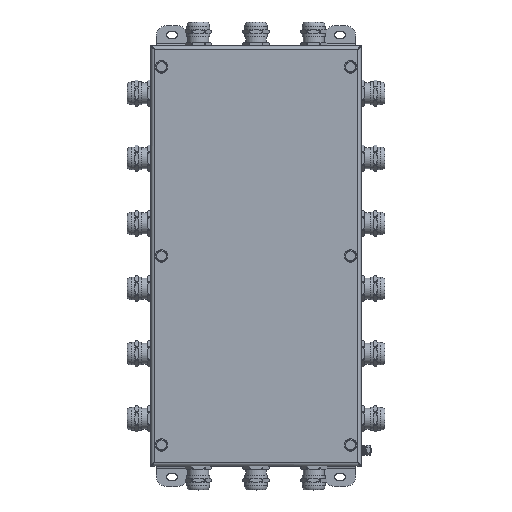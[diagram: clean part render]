
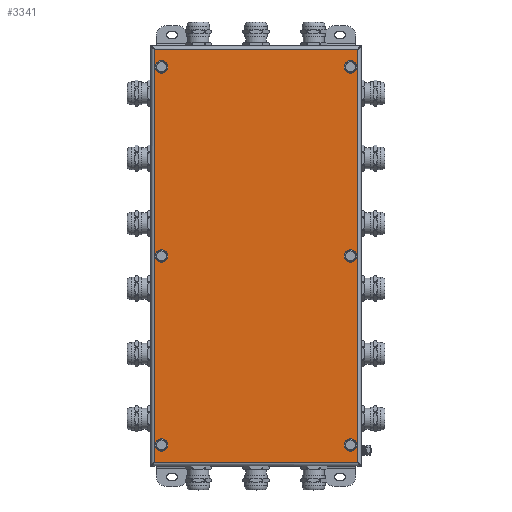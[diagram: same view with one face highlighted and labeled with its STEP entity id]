
A CAD part, top view. The second image highlights one B-rep face of the part: STEP entity #3341.
In plain terms, the highlighted planar face has unit normal (0, 0, 1).
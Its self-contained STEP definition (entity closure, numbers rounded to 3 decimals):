
#3341=ADVANCED_FACE('',(#21855,#21857,#21859,#21861,#21863,#21865,#21867),#21869,
.T.);
#21855=FACE_BOUND('',#21856,.T.);
#21856=EDGE_LOOP('',(#30116,#30117,#30118,#30119));
#21857=FACE_BOUND('',#21858,.T.);
#21858=EDGE_LOOP('',(#30120));
#21859=FACE_BOUND('',#21860,.T.);
#21860=EDGE_LOOP('',(#30121));
#21861=FACE_BOUND('',#21862,.T.);
#21862=EDGE_LOOP('',(#30122));
#21863=FACE_BOUND('',#21864,.T.);
#21864=EDGE_LOOP('',(#30123));
#21865=FACE_BOUND('',#21866,.T.);
#21866=EDGE_LOOP('',(#30124));
#21867=FACE_BOUND('',#21868,.T.);
#21868=EDGE_LOOP('',(#30125));
#21869=PLANE('',#21870);
#21870=AXIS2_PLACEMENT_3D('',#21871,#21872,#21873);
#21871=CARTESIAN_POINT('',(0.,0.,61.5));
#21872=DIRECTION('',(0.,-0.,1.));
#21873=DIRECTION('',(0.,1.,0.));
#30116=ORIENTED_EDGE('',*,*,#36983,.T.);
#30117=ORIENTED_EDGE('',*,*,#36984,.T.);
#30118=ORIENTED_EDGE('',*,*,#36985,.T.);
#30119=ORIENTED_EDGE('',*,*,#36986,.T.);
#30120=ORIENTED_EDGE('',*,*,#34010,.T.);
#30121=ORIENTED_EDGE('',*,*,#34004,.T.);
#30122=ORIENTED_EDGE('',*,*,#33998,.T.);
#30123=ORIENTED_EDGE('',*,*,#33992,.T.);
#30124=ORIENTED_EDGE('',*,*,#33986,.T.);
#30125=ORIENTED_EDGE('',*,*,#33980,.T.);
#33980=EDGE_CURVE('',#48079,#48079,#48080,.F.);
#33986=EDGE_CURVE('',#48091,#48091,#48092,.F.);
#33992=EDGE_CURVE('',#48103,#48103,#48104,.F.);
#33998=EDGE_CURVE('',#48115,#48115,#48116,.F.);
#34004=EDGE_CURVE('',#48127,#48127,#48128,.F.);
#34010=EDGE_CURVE('',#48139,#48139,#48140,.F.);
#36983=EDGE_CURVE('',#49545,#49546,#49547,.T.);
#36984=EDGE_CURVE('',#49546,#49548,#49549,.T.);
#36985=EDGE_CURVE('',#49548,#49550,#49551,.T.);
#36986=EDGE_CURVE('',#49550,#49545,#49552,.T.);
#48079=VERTEX_POINT('',#52330);
#48080=CIRCLE('',#52331,6.);
#48091=VERTEX_POINT('',#52360);
#48092=CIRCLE('',#52361,6.);
#48103=VERTEX_POINT('',#52390);
#48104=CIRCLE('',#52391,6.);
#48115=VERTEX_POINT('',#52420);
#48116=CIRCLE('',#52421,6.);
#48127=VERTEX_POINT('',#52450);
#48128=CIRCLE('',#52451,6.);
#48139=VERTEX_POINT('',#52480);
#48140=CIRCLE('',#52481,6.);
#49545=VERTEX_POINT('',#55748);
#49546=VERTEX_POINT('',#55749);
#49547=LINE('',#55750,#55751);
#49548=VERTEX_POINT('',#55753);
#49549=LINE('',#55754,#55755);
#49550=VERTEX_POINT('',#55757);
#49551=LINE('',#55758,#55759);
#49552=LINE('',#55761,#55762);
#52330=CARTESIAN_POINT('',(96.,180.,61.5));
#52331=AXIS2_PLACEMENT_3D('',#52332,#52333,#52334);
#52332=CARTESIAN_POINT('',(90.,180.,61.5));
#52333=DIRECTION('',(0.,-0.,1.));
#52334=DIRECTION('',(1.,0.,0.));
#52360=CARTESIAN_POINT('',(-84.,180.,61.5));
#52361=AXIS2_PLACEMENT_3D('',#52362,#52363,#52364);
#52362=CARTESIAN_POINT('',(-90.,180.,61.5));
#52363=DIRECTION('',(0.,-0.,1.));
#52364=DIRECTION('',(1.,0.,0.));
#52390=CARTESIAN_POINT('',(96.,0.,61.5));
#52391=AXIS2_PLACEMENT_3D('',#52392,#52393,#52394);
#52392=CARTESIAN_POINT('',(90.,0.,61.5));
#52393=DIRECTION('',(0.,-0.,1.));
#52394=DIRECTION('',(1.,0.,0.));
#52420=CARTESIAN_POINT('',(-84.,0.,61.5));
#52421=AXIS2_PLACEMENT_3D('',#52422,#52423,#52424);
#52422=CARTESIAN_POINT('',(-90.,0.,61.5));
#52423=DIRECTION('',(0.,-0.,1.));
#52424=DIRECTION('',(1.,0.,0.));
#52450=CARTESIAN_POINT('',(96.,-180.,61.5));
#52451=AXIS2_PLACEMENT_3D('',#52452,#52453,#52454);
#52452=CARTESIAN_POINT('',(90.,-180.,61.5));
#52453=DIRECTION('',(0.,-0.,1.));
#52454=DIRECTION('',(1.,0.,0.));
#52480=CARTESIAN_POINT('',(-84.,-180.,61.5));
#52481=AXIS2_PLACEMENT_3D('',#52482,#52483,#52484);
#52482=CARTESIAN_POINT('',(-90.,-180.,61.5));
#52483=DIRECTION('',(0.,-0.,1.));
#52484=DIRECTION('',(1.,0.,0.));
#55748=CARTESIAN_POINT('',(-96.8,196.8,61.5));
#55749=CARTESIAN_POINT('',(-96.8,-196.8,61.5));
#55750=CARTESIAN_POINT('',(-96.8,196.8,61.5));
#55751=VECTOR('',#55752,1.);
#55752=DIRECTION('',(0.,-1.,0.));
#55753=CARTESIAN_POINT('',(96.8,-196.8,61.5));
#55754=CARTESIAN_POINT('',(-96.8,-196.8,61.5));
#55755=VECTOR('',#55756,1.);
#55756=DIRECTION('',(1.,0.,0.));
#55757=CARTESIAN_POINT('',(96.8,196.8,61.5));
#55758=CARTESIAN_POINT('',(96.8,-196.8,61.5));
#55759=VECTOR('',#55760,1.);
#55760=DIRECTION('',(0.,1.,0.));
#55761=CARTESIAN_POINT('',(96.8,196.8,61.5));
#55762=VECTOR('',#55763,1.);
#55763=DIRECTION('',(-1.,0.,0.));
